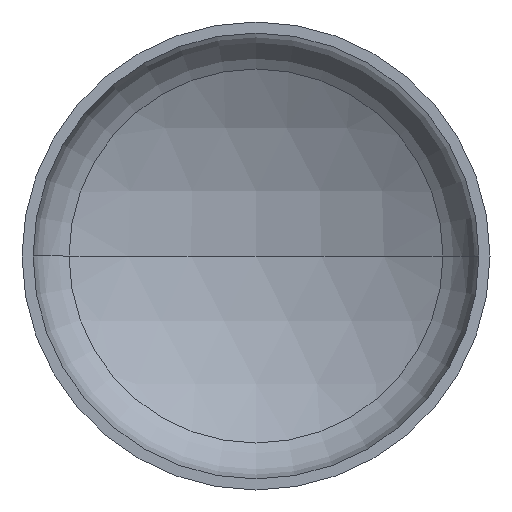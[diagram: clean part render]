
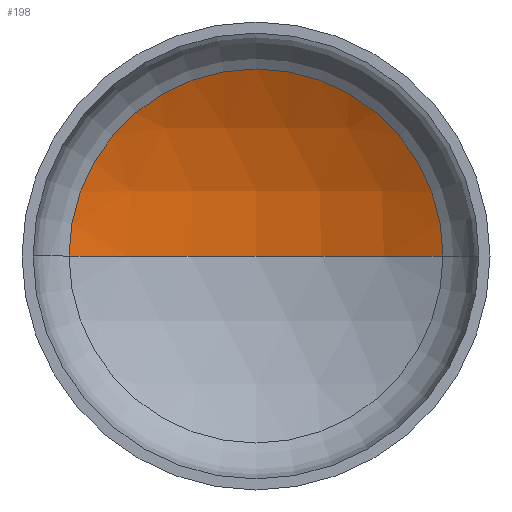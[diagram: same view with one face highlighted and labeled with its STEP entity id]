
A CAD part, front view. The second image highlights one B-rep face of the part: STEP entity #198.
In plain terms, the highlighted spherical face has radius 406 mm.
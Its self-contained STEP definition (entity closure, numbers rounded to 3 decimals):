
#7 = ORIENTED_EDGE ( 'NONE', *, *, #182, .T. ) ;
#10 = DIRECTION ( 'NONE',  ( 1., 0., 0. ) ) ;
#11 = DIRECTION ( 'NONE',  ( 0., -1., 0. ) ) ;
#18 = ORIENTED_EDGE ( 'NONE', *, *, #185, .F. ) ;
#19 = CARTESIAN_POINT ( 'NONE',  ( 0., 107.55, 0. ) ) ;
#20 = EDGE_LOOP ( 'NONE', ( #18, #7, #109 ) ) ;
#39 = DIRECTION ( 'NONE',  ( -1., 0., 0. ) ) ;
#45 = DIRECTION ( 'NONE',  ( 0., 0., -1. ) ) ;
#51 = FACE_OUTER_BOUND ( 'NONE', #20, .T. ) ;
#65 = AXIS2_PLACEMENT_3D ( 'NONE', #236, #45, #39 ) ;
#71 = VERTEX_POINT ( 'NONE', #230 ) ;
#84 = VERTEX_POINT ( 'NONE', #252 ) ;
#89 = CIRCLE ( 'NONE', #106, 406. ) ;
#100 = AXIS2_PLACEMENT_3D ( 'NONE', #197, #199, #215 ) ;
#106 = AXIS2_PLACEMENT_3D ( 'NONE', #148, #312, #329 ) ;
#109 = ORIENTED_EDGE ( 'NONE', *, *, #179, .T. ) ;
#110 = AXIS2_PLACEMENT_3D ( 'NONE', #19, #11, #10 ) ;
#111 = VERTEX_POINT ( 'NONE', #225 ) ;
#148 = CARTESIAN_POINT ( 'NONE',  ( 0., -244.056, 0. ) ) ;
#179 = EDGE_CURVE ( 'NONE', #84, #111, #201, .T. ) ;
#182 = EDGE_CURVE ( 'NONE', #71, #84, #89, .T. ) ;
#185 = EDGE_CURVE ( 'NONE', #71, #111, #323, .T. ) ;
#197 = CARTESIAN_POINT ( 'NONE',  ( 0., -244.056, 0. ) ) ;
#198 = ADVANCED_FACE ( 'NONE', ( #51 ), #318, .F. ) ;
#199 = DIRECTION ( 'NONE',  ( 0., 0., 1. ) ) ;
#201 = CIRCLE ( 'NONE', #110, 203. ) ;
#215 = DIRECTION ( 'NONE',  ( 1., 0., 0. ) ) ;
#225 = CARTESIAN_POINT ( 'NONE',  ( -203., 107.55, 0. ) ) ;
#230 = CARTESIAN_POINT ( 'NONE',  ( 0., 161.944, 0. ) ) ;
#236 = CARTESIAN_POINT ( 'NONE',  ( 0., -244.056, 0. ) ) ;
#252 = CARTESIAN_POINT ( 'NONE',  ( 203., 107.55, 0. ) ) ;
#312 = DIRECTION ( 'NONE',  ( 0., 0., -1. ) ) ;
#318 = SPHERICAL_SURFACE ( 'NONE', #65, 406. ) ;
#323 = CIRCLE ( 'NONE', #100, 406. ) ;
#329 = DIRECTION ( 'NONE',  ( -1., 0., 0. ) ) ;
